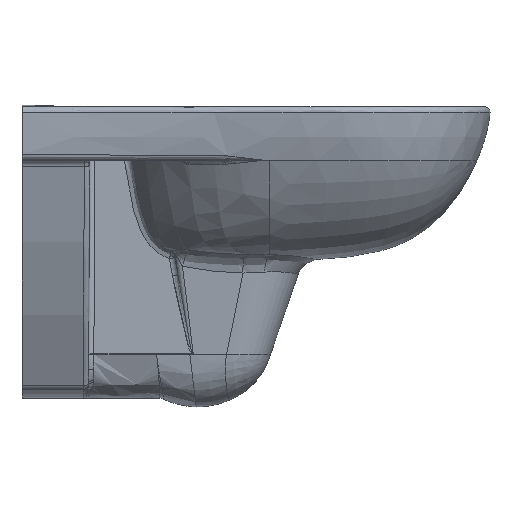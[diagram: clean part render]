
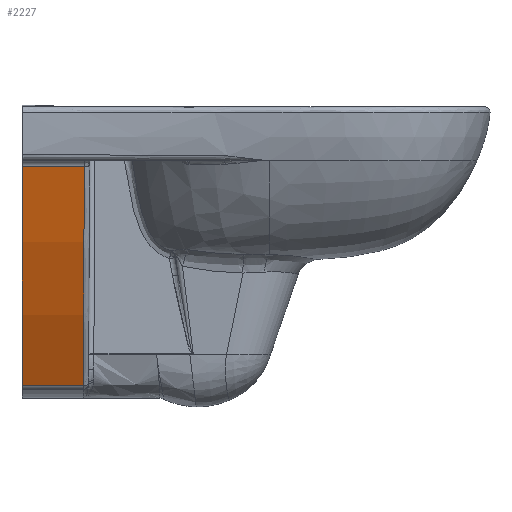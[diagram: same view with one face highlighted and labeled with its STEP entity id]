
A CAD part, left-side view. The second image highlights one B-rep face of the part: STEP entity #2227.
In plain terms, the highlighted free-form (B-spline) face has degree [3, 3] with [4, 4] control points.
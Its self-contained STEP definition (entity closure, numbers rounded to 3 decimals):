
#172=B_SPLINE_CURVE_WITH_KNOTS('',3,(#8390,#8391,#8392,#8393,#8394,#8395,
#8396,#8397,#8398,#8399,#8400,#8401,#8402,#8403,#8404,#8405),
 .UNSPECIFIED.,.F.,.F.,(4,2,2,2,2,2,2,4),(0.,0.146,0.292,
0.439,0.585,0.73,0.874,
1.),.UNSPECIFIED.);
#193=B_SPLINE_CURVE_WITH_KNOTS('',3,(#11389,#11390,#11391,#11392,#11393,
#11394,#11395,#11396,#11397,#11398,#11399,#11400,#11401,#11402,#11403,#11404,
#11405,#11406,#11407,#11408,#11409,#11410,#11411,#11412,#11413,#11414,#11415,
#11416,#11417,#11418,#11419,#11420,#11421,#11422,#11423,#11424,#11425,#11426,
#11427,#11428,#11429,#11430,#11431,#11432,#11433,#11434,#11435,#11436,#11437,
#11438,#11439,#11440,#11441,#11442,#11443,#11444,#11445,#11446,#11447),
 .UNSPECIFIED.,.F.,.F.,(4,2,2,2,2,2,2,2,1,2,2,2,2,2,2,2,2,2,2,2,2,2,2,2,
2,2,2,2,2,4),(0.,0.063,0.124,0.186,0.248,
0.309,0.371,0.391,0.394,
0.396,0.398,0.428,0.458,
0.475,0.479,0.481,0.483,
0.509,0.535,0.561,0.575,
0.578,0.58,0.641,0.703,
0.764,0.826,0.887,0.948,
1.),.UNSPECIFIED.);
#318=LINE('',#11370,#375);
#319=LINE('',#11388,#376);
#375=VECTOR('',#2606,69.162);
#376=VECTOR('',#2607,70.641);
#419=B_SPLINE_SURFACE_WITH_KNOTS('',3,3,((#11371,#11372,#11373,#11374),
(#11375,#11376,#11377,#11378),(#11379,#11380,#11381,#11382),(#11383,#11384,
#11385,#11386)),.UNSPECIFIED.,.F.,.F.,.F.,(4,4),(4,4),(0.,1.),(0.,1.),
 .UNSPECIFIED.);
#535=FACE_OUTER_BOUND('',#680,.T.);
#680=EDGE_LOOP('',(#1618,#1619,#1620,#1621));
#907=VERTEX_POINT('',#8275);
#909=VERTEX_POINT('',#8329);
#933=VERTEX_POINT('',#11368);
#934=VERTEX_POINT('',#11387);
#1144=EDGE_CURVE('',#909,#907,#172,.T.);
#1186=EDGE_CURVE('',#907,#933,#318,.T.);
#1187=EDGE_CURVE('',#909,#934,#319,.T.);
#1188=EDGE_CURVE('',#933,#934,#193,.T.);
#1618=ORIENTED_EDGE('',*,*,#1144,.F.);
#1619=ORIENTED_EDGE('',*,*,#1187,.T.);
#1620=ORIENTED_EDGE('',*,*,#1188,.F.);
#1621=ORIENTED_EDGE('',*,*,#1186,.F.);
#2227=ADVANCED_FACE('',(#535),#419,.F.);
#2606=DIRECTION('',(0.,1.,0.));
#2607=DIRECTION('',(0.,1.,0.));
#8275=CARTESIAN_POINT('',(-50.549,-69.162,82.353));
#8329=CARTESIAN_POINT('',(-143.327,-70.641,330.751));
#8390=CARTESIAN_POINT('Ctrl Pts',(-143.327,-70.641,330.751));
#8391=CARTESIAN_POINT('Ctrl Pts',(-140.497,-70.566,318.112));
#8392=CARTESIAN_POINT('Ctrl Pts',(-137.416,-70.491,305.528));
#8393=CARTESIAN_POINT('Ctrl Pts',(-130.747,-70.342,280.47));
#8394=CARTESIAN_POINT('Ctrl Pts',(-127.159,-70.267,267.995));
#8395=CARTESIAN_POINT('Ctrl Pts',(-119.486,-70.12,243.199));
#8396=CARTESIAN_POINT('Ctrl Pts',(-115.402,-70.046,230.878));
#8397=CARTESIAN_POINT('Ctrl Pts',(-106.756,-69.901,206.455));
#8398=CARTESIAN_POINT('Ctrl Pts',(-102.198,-69.829,194.353));
#8399=CARTESIAN_POINT('Ctrl Pts',(-92.616,-69.686,170.388));
#8400=CARTESIAN_POINT('Ctrl Pts',(-87.594,-69.615,158.526));
#8401=CARTESIAN_POINT('Ctrl Pts',(-77.121,-69.476,135.112));
#8402=CARTESIAN_POINT('Ctrl Pts',(-71.673,-69.407,123.56));
#8403=CARTESIAN_POINT('Ctrl Pts',(-61.022,-69.279,102.109));
#8404=CARTESIAN_POINT('Ctrl Pts',(-55.873,-69.22,92.183));
#8405=CARTESIAN_POINT('Ctrl Pts',(-50.549,-69.162,82.352));
#11368=CARTESIAN_POINT('',(-50.549,0.,82.377));
#11370=CARTESIAN_POINT('',(-50.549,-69.162,82.352));
#11371=CARTESIAN_POINT('Ctrl Pts',(-50.549,0.,
82.377));
#11372=CARTESIAN_POINT('Ctrl Pts',(-50.549,-23.547,
82.368));
#11373=CARTESIAN_POINT('Ctrl Pts',(-50.549,-47.094,
82.36));
#11374=CARTESIAN_POINT('Ctrl Pts',(-50.549,-70.641,
82.352));
#11375=CARTESIAN_POINT('Ctrl Pts',(-92.771,0.,
160.34));
#11376=CARTESIAN_POINT('Ctrl Pts',(-92.771,-23.547,
160.332));
#11377=CARTESIAN_POINT('Ctrl Pts',(-92.771,-47.094,
160.324));
#11378=CARTESIAN_POINT('Ctrl Pts',(-92.771,-70.641,
160.315));
#11379=CARTESIAN_POINT('Ctrl Pts',(-123.952,0.,
244.213));
#11380=CARTESIAN_POINT('Ctrl Pts',(-123.952,-23.547,
244.21));
#11381=CARTESIAN_POINT('Ctrl Pts',(-123.952,-47.094,
244.208));
#11382=CARTESIAN_POINT('Ctrl Pts',(-123.952,-70.641,
244.205));
#11383=CARTESIAN_POINT('Ctrl Pts',(-143.327,0.,
330.753));
#11384=CARTESIAN_POINT('Ctrl Pts',(-143.327,-23.547,
330.752));
#11385=CARTESIAN_POINT('Ctrl Pts',(-143.327,-47.094,
330.751));
#11386=CARTESIAN_POINT('Ctrl Pts',(-143.327,-70.641,
330.751));
#11387=CARTESIAN_POINT('',(-143.326,0.,330.751));
#11388=CARTESIAN_POINT('',(-143.327,-70.641,330.751));
#11389=CARTESIAN_POINT('Ctrl Pts',(-50.549,0.,
82.377));
#11390=CARTESIAN_POINT('Ctrl Pts',(-53.181,0.,
87.235));
#11391=CARTESIAN_POINT('Ctrl Pts',(-55.769,0.,
92.117));
#11392=CARTESIAN_POINT('Ctrl Pts',(-60.824,0.,
101.856));
#11393=CARTESIAN_POINT('Ctrl Pts',(-63.292,0.,
106.712));
#11394=CARTESIAN_POINT('Ctrl Pts',(-68.147,0.,
116.474));
#11395=CARTESIAN_POINT('Ctrl Pts',(-70.535,0.,
121.381));
#11396=CARTESIAN_POINT('Ctrl Pts',(-75.229,0.,
131.242));
#11397=CARTESIAN_POINT('Ctrl Pts',(-77.535,0.,
136.196));
#11398=CARTESIAN_POINT('Ctrl Pts',(-82.065,0.,
146.149));
#11399=CARTESIAN_POINT('Ctrl Pts',(-84.289,0.,
151.149));
#11400=CARTESIAN_POINT('Ctrl Pts',(-88.653,0.,
161.19));
#11401=CARTESIAN_POINT('Ctrl Pts',(-90.793,0.,
166.232));
#11402=CARTESIAN_POINT('Ctrl Pts',(-93.56,0.,
172.909));
#11403=CARTESIAN_POINT('Ctrl Pts',(-94.224,0.,
174.525));
#11404=CARTESIAN_POINT('Ctrl Pts',(-95.,0.,
176.426));
#11405=CARTESIAN_POINT('Ctrl Pts',(-95.19,0.,
176.895));
#11406=CARTESIAN_POINT('Ctrl Pts',(-95.381,0.,
177.363));
#11407=CARTESIAN_POINT('Ctrl Pts',(-95.526,0.,
177.72));
#11408=CARTESIAN_POINT('Ctrl Pts',(-95.595,0.,
177.891));
#11409=CARTESIAN_POINT('Ctrl Pts',(-96.66,0.,
180.517));
#11410=CARTESIAN_POINT('Ctrl Pts',(-97.646,0.,
182.977));
#11411=CARTESIAN_POINT('Ctrl Pts',(-99.599,0.,
187.91));
#11412=CARTESIAN_POINT('Ctrl Pts',(-100.565,0.,
190.381));
#11413=CARTESIAN_POINT('Ctrl Pts',(-102.066,0.,
194.265));
#11414=CARTESIAN_POINT('Ctrl Pts',(-102.607,0.,
195.674));
#11415=CARTESIAN_POINT('Ctrl Pts',(-103.274,0.,
197.426));
#11416=CARTESIAN_POINT('Ctrl Pts',(-103.404,0.,
197.768));
#11417=CARTESIAN_POINT('Ctrl Pts',(-103.597,0.,
198.276));
#11418=CARTESIAN_POINT('Ctrl Pts',(-103.66,0.,
198.443));
#11419=CARTESIAN_POINT('Ctrl Pts',(-103.776,0.,
198.748));
#11420=CARTESIAN_POINT('Ctrl Pts',(-103.828,0.,
198.886));
#11421=CARTESIAN_POINT('Ctrl Pts',(-104.708,0.,
201.209));
#11422=CARTESIAN_POINT('Ctrl Pts',(-105.525,0.,
203.391));
#11423=CARTESIAN_POINT('Ctrl Pts',(-107.143,0.,
207.761));
#11424=CARTESIAN_POINT('Ctrl Pts',(-107.944,0.,
209.948));
#11425=CARTESIAN_POINT('Ctrl Pts',(-109.529,0.,
214.328));
#11426=CARTESIAN_POINT('Ctrl Pts',(-110.315,0.,
216.521));
#11427=CARTESIAN_POINT('Ctrl Pts',(-111.497,0.,
219.861));
#11428=CARTESIAN_POINT('Ctrl Pts',(-111.9,0.,
221.006));
#11429=CARTESIAN_POINT('Ctrl Pts',(-112.375,0.,
222.364));
#11430=CARTESIAN_POINT('Ctrl Pts',(-112.449,0.,
222.577));
#11431=CARTESIAN_POINT('Ctrl Pts',(-112.582,0.,
222.958));
#11432=CARTESIAN_POINT('Ctrl Pts',(-112.641,0.,
223.127));
#11433=CARTESIAN_POINT('Ctrl Pts',(-114.49,0.,
228.436));
#11434=CARTESIAN_POINT('Ctrl Pts',(-116.237,0.,
233.59));
#11435=CARTESIAN_POINT('Ctrl Pts',(-119.644,0.,
243.93));
#11436=CARTESIAN_POINT('Ctrl Pts',(-121.305,0.,
249.116));
#11437=CARTESIAN_POINT('Ctrl Pts',(-124.54,0.,
259.519));
#11438=CARTESIAN_POINT('Ctrl Pts',(-126.115,0.,
264.736));
#11439=CARTESIAN_POINT('Ctrl Pts',(-129.176,0.,
275.196));
#11440=CARTESIAN_POINT('Ctrl Pts',(-130.663,0.,
280.439));
#11441=CARTESIAN_POINT('Ctrl Pts',(-133.548,0.,
290.95));
#11442=CARTESIAN_POINT('Ctrl Pts',(-134.947,0.,
296.218));
#11443=CARTESIAN_POINT('Ctrl Pts',(-137.654,0.,
306.772));
#11444=CARTESIAN_POINT('Ctrl Pts',(-138.963,0.,
312.058));
#11445=CARTESIAN_POINT('Ctrl Pts',(-141.292,0.,
321.813));
#11446=CARTESIAN_POINT('Ctrl Pts',(-142.324,0.,
326.277));
#11447=CARTESIAN_POINT('Ctrl Pts',(-143.326,0.,
330.751));
